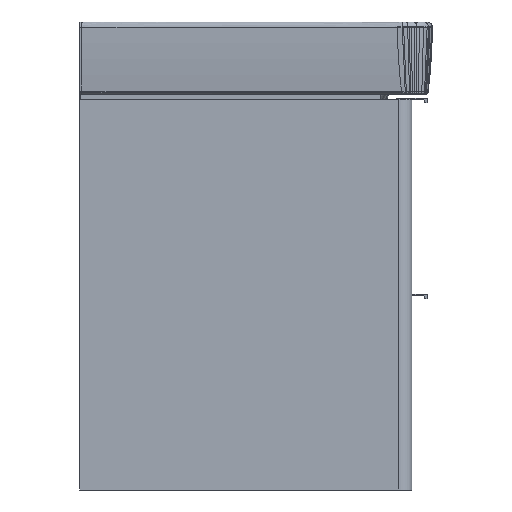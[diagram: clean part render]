
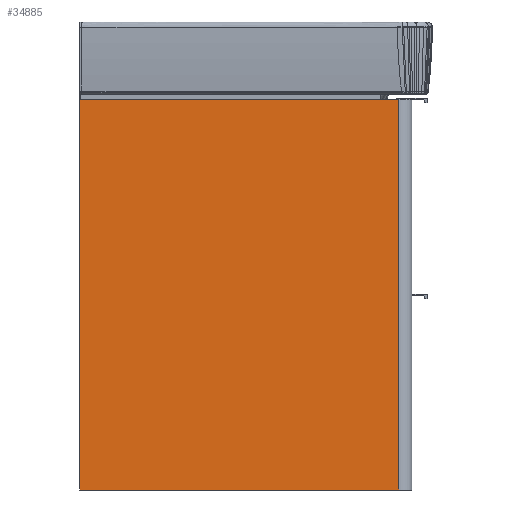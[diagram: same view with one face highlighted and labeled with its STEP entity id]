
A CAD part, left-side view. The second image highlights one B-rep face of the part: STEP entity #34885.
In plain terms, the highlighted planar face has unit normal (-1, 0, 0).
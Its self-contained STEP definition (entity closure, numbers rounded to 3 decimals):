
#8760=FACE_OUTER_BOUND('',#10188,.T.);
#10188=EDGE_LOOP('',(#26925,#26926,#26927,#26928));
#11790=LINE('',#45048,#13452);
#11792=LINE('',#45054,#13454);
#11796=LINE('',#45062,#13458);
#11797=LINE('',#45063,#13459);
#13452=VECTOR('',#39007,10.);
#13454=VECTOR('',#39013,10.);
#13458=VECTOR('',#39019,10.);
#13459=VECTOR('',#39020,10.);
#15104=VERTEX_POINT('',#45045);
#15105=VERTEX_POINT('',#45047);
#15107=VERTEX_POINT('',#45053);
#15110=VERTEX_POINT('',#45061);
#20782=EDGE_CURVE('',#15104,#15105,#11790,.T.);
#20785=EDGE_CURVE('',#15105,#15107,#11792,.T.);
#20789=EDGE_CURVE('',#15110,#15104,#11796,.T.);
#20790=EDGE_CURVE('',#15107,#15110,#11797,.T.);
#26925=ORIENTED_EDGE('',*,*,#20782,.F.);
#26926=ORIENTED_EDGE('',*,*,#20789,.F.);
#26927=ORIENTED_EDGE('',*,*,#20790,.F.);
#26928=ORIENTED_EDGE('',*,*,#20785,.F.);
#34346=PLANE('',#36755);
#34885=ADVANCED_FACE('',(#8760),#34346,.T.);
#36755=AXIS2_PLACEMENT_3D('',#45060,#39017,#39018);
#39007=DIRECTION('',(0.,0.,-1.));
#39013=DIRECTION('',(0.,1.,0.));
#39017=DIRECTION('center_axis',(-1.,0.,0.));
#39018=DIRECTION('ref_axis',(0.,-1.,0.));
#39019=DIRECTION('',(0.,-1.,0.));
#39020=DIRECTION('',(0.,0.,1.));
#45045=CARTESIAN_POINT('',(-307.5,-202.,515.));
#45047=CARTESIAN_POINT('',(-307.5,-202.,0.));
#45048=CARTESIAN_POINT('',(-307.5,-202.,0.));
#45053=CARTESIAN_POINT('',(-307.5,219.,0.));
#45054=CARTESIAN_POINT('',(-307.5,-219.,0.));
#45060=CARTESIAN_POINT('Origin',(-307.5,219.,0.));
#45061=CARTESIAN_POINT('',(-307.5,219.,515.));
#45062=CARTESIAN_POINT('',(-307.5,-219.,515.));
#45063=CARTESIAN_POINT('',(-307.5,219.,0.));
